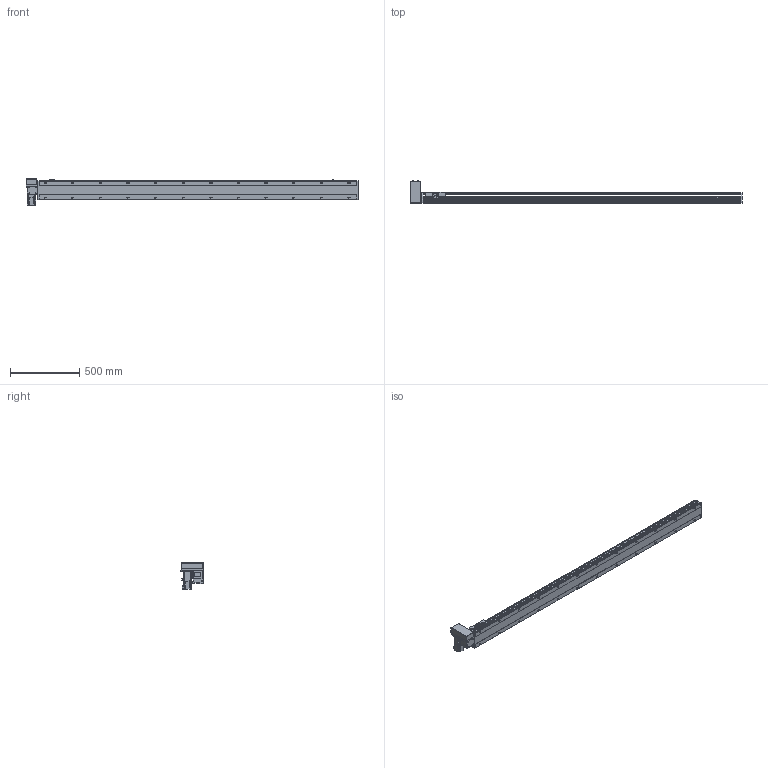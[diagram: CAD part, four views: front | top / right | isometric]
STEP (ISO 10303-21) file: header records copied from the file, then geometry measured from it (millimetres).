
FILE_DESCRIPTION( ( 'STEP AP214' ), '1' );
FILE_NAME( 'x:/temp/worker_1/temp/exporttempdir_5824_153_1qFZP/format_0/PBS140-P40-S2050-RU-T40-C1-N(0).stp', '2022-06-07T05:56:16', ( 'License CC BY-ND 4.0' ), ( 'CADENAS' ), ' ', 'PARTsolutions', ' ' );
FILE_SCHEMA( ( 'AUTOMOTIVE_DESIGN { 1 0 10303 214 1 1 1 1 }' ) );
Length unit declared in the file: millimetre
Products named in the file (7): PBS140-P40-S2050-RU-T40-C1-N(0); _PBS140-S2050()_body; _PBS140T-RU_motors; _T40-p1; _PBS140_sliser; _PBS140_plant; _PBS140_sensor
Assembly tree (8 placements, depth 2):
  PBS140-P40-S2050-RU-T40-C1-N(0)
    _PBS140-S2050()_body
    _PBS140T-RU_motors
    _T40-p1
    _PBS140_sliser
    _PBS140_plant
    _PBS140_sensor  x3
Bounding box: 2404 x 162.5 x 189.7 mm (x, y, z)
Volume: 10915651.9 mm3; surface area: 1867351.5 mm2
Topology: 8 solids, 8 shells, 1139 faces, 2996 edges, 1957 vertices
Faces by surface type: plane 716, cylinder 363, cone 50, sphere 8, torus 2
Full cylindrical faces by diameter (mm): 3.242 x4, 4 x2, 4.134 x4, 4.4 x8, 4.5 x2, 4.8 x4, 4.917 x32, 5.5 x7, 6 x2, 7 x26, 7.5 x8, 8 x12, 8.5 x4, 10.5 x24, 14 x1, 30 x2, 50 x2
Entity records: 41857 total; most frequent: CARTESIAN_POINT 6923, DIRECTION 5477, ORIENTED_EDGE 5152, EDGE_CURVE 2576, AXIS2_PLACEMENT_3D 1927, VERTEX_POINT 1797, LINE 1623, VECTOR 1623
